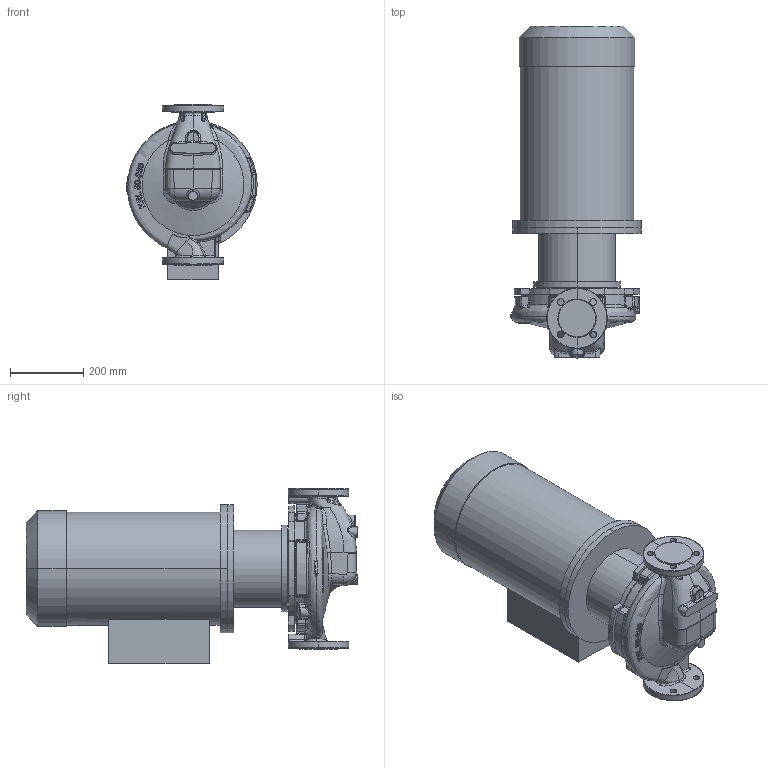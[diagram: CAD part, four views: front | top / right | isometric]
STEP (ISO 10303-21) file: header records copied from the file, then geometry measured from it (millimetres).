
FILE_DESCRIPTION (( 'STEP AP214' ), '1' );
FILE_NAME ('KRL 50-250-2-18,5.STEP', '2026-03-23T07:26:19', ( '' ), ( '' ), 'SwSTEP 2.0', 'SolidWorks 2016', '' );
FILE_SCHEMA (( 'AUTOMOTIVE_DESIGN' ));
Length unit declared in the file: millimetre
Products named in the file (1): KRL 50-250-2-18,5
Bounding box: 355.57 x 905.3 x 480 mm (x, y, z)
Volume: 64812652 mm3; surface area: 1805145.2 mm2
Topology: 4 solids, 4 shells, 873 faces, 2158 edges, 1302 vertices
Faces by surface type: bspline 456, plane 150, cylinder 141, sphere 47, cone 44, torus 35
Entity records: 74287 total; most frequent: CARTESIAN_POINT 47844, ORIENTED_EDGE 4272, DIRECTION 2411, EDGE_CURVE 2136, VERTEX_POINT 1302, AXIS2_PLACEMENT_3D 987, B_SPLINE_CURVE_WITH_KNOTS 960, EDGE_LOOP 920
